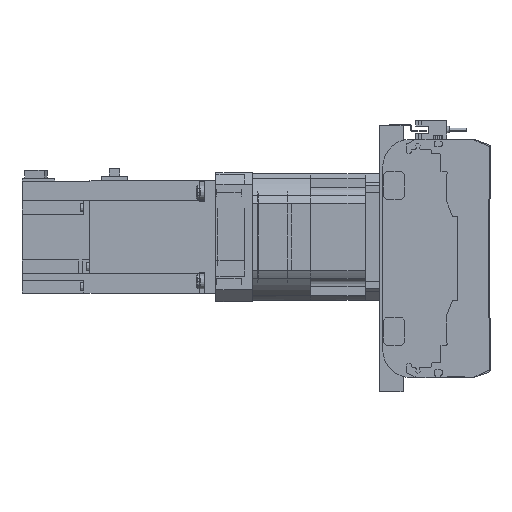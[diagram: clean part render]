
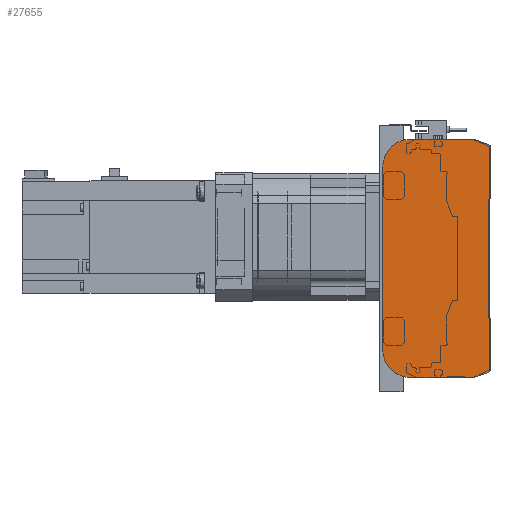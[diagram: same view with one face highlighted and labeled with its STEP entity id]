
A CAD part, left-side view. The second image highlights one B-rep face of the part: STEP entity #27655.
In plain terms, the highlighted planar face has unit normal (-1, 0, 0).
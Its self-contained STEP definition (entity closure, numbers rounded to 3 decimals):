
#2195=CIRCLE('',#30245,2.);
#2196=CIRCLE('',#30248,2.);
#2197=CIRCLE('',#30251,20.);
#2198=CIRCLE('',#30254,20.);
#7912=ORIENTED_EDGE('',*,*,#13347,.F.);
#7913=ORIENTED_EDGE('',*,*,#13425,.F.);
#7914=ORIENTED_EDGE('',*,*,#13423,.F.);
#7915=ORIENTED_EDGE('',*,*,#13421,.F.);
#7916=ORIENTED_EDGE('',*,*,#13094,.F.);
#7917=ORIENTED_EDGE('',*,*,#13420,.F.);
#7918=ORIENTED_EDGE('',*,*,#13418,.F.);
#7919=ORIENTED_EDGE('',*,*,#13416,.F.);
#7920=ORIENTED_EDGE('',*,*,#13414,.F.);
#7921=ORIENTED_EDGE('',*,*,#13412,.F.);
#13094=EDGE_CURVE('',#16144,#16145,#18470,.T.);
#13347=EDGE_CURVE('',#16216,#16217,#18584,.T.);
#13412=EDGE_CURVE('',#16217,#16258,#18629,.T.);
#13414=EDGE_CURVE('',#16258,#16259,#2195,.T.);
#13416=EDGE_CURVE('',#16259,#16260,#18632,.T.);
#13418=EDGE_CURVE('',#16260,#16261,#2196,.T.);
#13420=EDGE_CURVE('',#16261,#16144,#18635,.T.);
#13421=EDGE_CURVE('',#16145,#16262,#2197,.T.);
#13423=EDGE_CURVE('',#16262,#16263,#18637,.T.);
#13425=EDGE_CURVE('',#16263,#16216,#2198,.T.);
#16144=VERTEX_POINT('',#46920);
#16145=VERTEX_POINT('',#46922);
#16216=VERTEX_POINT('',#47298);
#16217=VERTEX_POINT('',#47300);
#16258=VERTEX_POINT('',#47430);
#16259=VERTEX_POINT('',#47434);
#16260=VERTEX_POINT('',#47438);
#16261=VERTEX_POINT('',#47442);
#16262=VERTEX_POINT('',#47448);
#16263=VERTEX_POINT('',#47452);
#18470=LINE('',#46921,#20711);
#18584=LINE('',#47299,#20825);
#18629=LINE('',#47429,#20870);
#18632=LINE('',#47437,#20873);
#18635=LINE('',#47445,#20876);
#18637=LINE('',#47451,#20878);
#20711=VECTOR('',#36587,1000.);
#20825=VECTOR('',#37085,1000.);
#20870=VECTOR('',#37218,1000.);
#20873=VECTOR('',#37227,1000.);
#20876=VECTOR('',#37236,1000.);
#20878=VECTOR('',#37244,1000.);
#22656=EDGE_LOOP('',(#7912,#7913,#7914,#7915,#7916,#7917,#7918,#7919,#7920,
#7921));
#24941=FACE_BOUND('',#22656,.T.);
#26310=PLANE('',#30256);
#27655=ADVANCED_FACE('',(#24941),#26310,.F.);
#30245=AXIS2_PLACEMENT_3D('',#47433,#37222,#37223);
#30248=AXIS2_PLACEMENT_3D('',#47441,#37231,#37232);
#30251=AXIS2_PLACEMENT_3D('',#47447,#37239,#37240);
#30254=AXIS2_PLACEMENT_3D('',#47455,#37248,#37249);
#30256=AXIS2_PLACEMENT_3D('',#47457,#37252,#37253);
#36587=DIRECTION('',(0.,1.,0.));
#37085=DIRECTION('',(0.,-1.,0.));
#37218=DIRECTION('',(0.,-0.913,-0.408));
#37222=DIRECTION('',(1.,0.,0.));
#37223=DIRECTION('',(0.,0.,-1.));
#37227=DIRECTION('',(0.,0.,-1.));
#37231=DIRECTION('',(1.,0.,0.));
#37232=DIRECTION('',(0.,0.,-1.));
#37236=DIRECTION('',(0.,0.913,-0.408));
#37239=DIRECTION('',(1.,0.,0.));
#37240=DIRECTION('',(0.,0.,-1.));
#37244=DIRECTION('',(0.,0.,1.));
#37248=DIRECTION('',(1.,0.,0.));
#37249=DIRECTION('',(0.,0.,-1.));
#37252=DIRECTION('',(1.,0.,0.));
#37253=DIRECTION('',(0.,0.,-1.));
#46920=CARTESIAN_POINT('',(0.,12.33,-85.));
#46921=CARTESIAN_POINT('',(0.,12.33,-85.));
#46922=CARTESIAN_POINT('',(0.,56.5,-85.));
#47298=CARTESIAN_POINT('',(0.,56.5,85.));
#47299=CARTESIAN_POINT('',(0.,56.5,85.));
#47300=CARTESIAN_POINT('',(0.,12.33,85.));
#47429=CARTESIAN_POINT('',(0.,12.33,85.));
#47430=CARTESIAN_POINT('',(0.,1.684,80.239));
#47433=CARTESIAN_POINT('',(0.,2.5,78.413));
#47434=CARTESIAN_POINT('',(0.,0.5,78.413));
#47437=CARTESIAN_POINT('',(0.,0.5,78.413));
#47438=CARTESIAN_POINT('',(0.,0.5,-78.413));
#47441=CARTESIAN_POINT('',(0.,2.5,-78.413));
#47442=CARTESIAN_POINT('',(0.,1.684,-80.239));
#47445=CARTESIAN_POINT('',(0.,1.684,-80.239));
#47447=CARTESIAN_POINT('',(0.,56.5,-65.));
#47448=CARTESIAN_POINT('',(0.,76.5,-65.));
#47451=CARTESIAN_POINT('',(0.,76.5,-65.));
#47452=CARTESIAN_POINT('',(0.,76.5,65.));
#47455=CARTESIAN_POINT('',(0.,56.5,65.));
#47457=CARTESIAN_POINT('',(0.,2.5,78.413));
